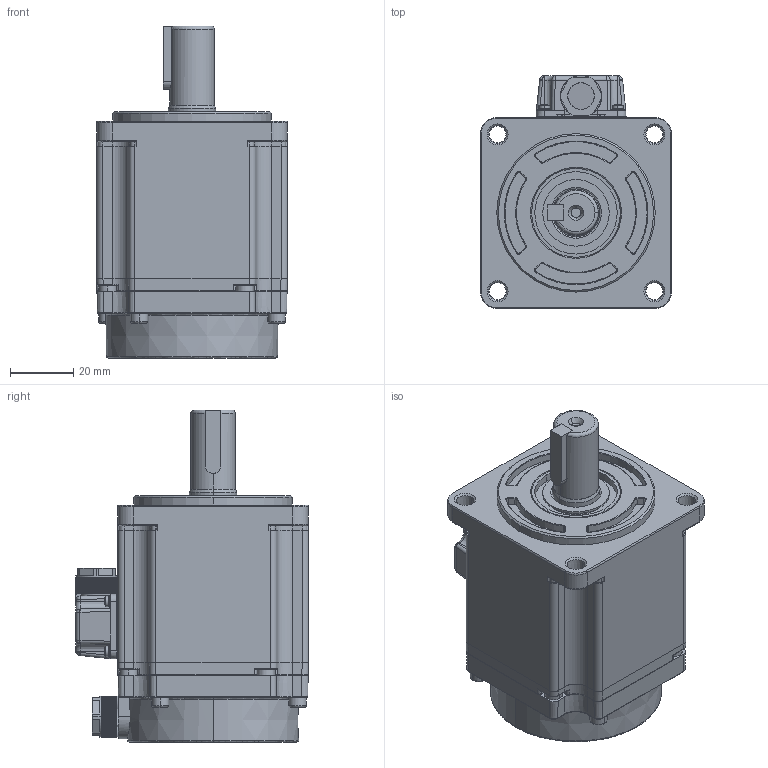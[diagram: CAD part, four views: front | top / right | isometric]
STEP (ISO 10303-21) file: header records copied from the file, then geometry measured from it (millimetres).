
FILE_DESCRIPTION (( 'STEP AP203' ), '1' );
FILE_NAME ('G3系列60ST-200W标准电机三维图.STEP', '2020-11-04T08:43:21', ( '微软用户' ), ( '微软中国' ), 'SwSTEP 2.0', 'SolidWorks 2016', '' );
FILE_SCHEMA (( 'CONFIG_CONTROL_DESIGN' ));
Products named in the file (1): G3系列60ST-200W标准电机三维图
Bounding box: 60.2 x 73.5 x 104.8 mm (x, y, z)
Volume: 102899.9 mm3; surface area: 69954.7 mm2
Topology: 21 solids, 21 shells, 2945 faces, 7159 edges, 4351 vertices
Faces by surface type: plane 1610, cylinder 535, cone 513, bspline 171, torus 100, sphere 16
Entity records: 89641 total; most frequent: CARTESIAN_POINT 20857, DIRECTION 14564, ORIENTED_EDGE 14286, EDGE_CURVE 7143, AXIS2_PLACEMENT_3D 5205, VERTEX_POINT 4351, LINE 4154, VECTOR 4154
